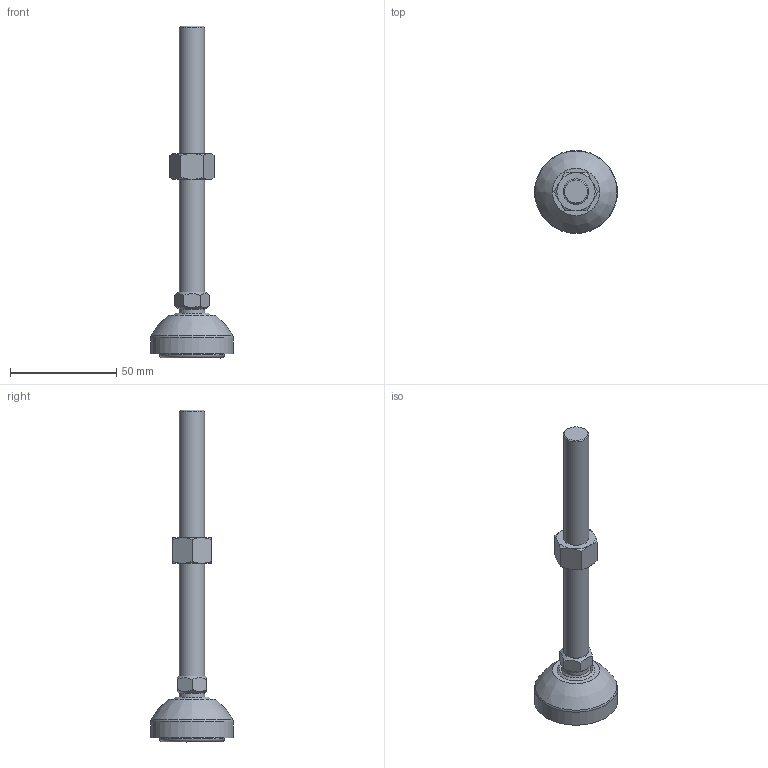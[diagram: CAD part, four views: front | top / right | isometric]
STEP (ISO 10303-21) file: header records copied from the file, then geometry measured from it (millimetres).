
FILE_DESCRIPTION(/* description */ (''),/* implementation_level */ '2;1');
FILE_NAME(/* name */ 'Articulating Anti-slip Levelling Foot - Metal 39mm - M12 - 125mm.step',/* time_stamp */ '2025-10-13T20:37:46+03:00',/* author */ (''),/* organization */ (''),/* preprocessor_version */ 'ST-DEVELOPER v20.1',/* originating_system */ 'Autodesk Translation Framework v14.17.0.0',/* authorisation */ '');
FILE_SCHEMA (('AUTOMOTIVE_DESIGN { 1 0 10303 214 3 1 1 }'));
Length unit declared in the file: millimetre
Products named in the file (5): Articulating Anti-slip Levelling Foot - Metal 39mm - M12 - 125mm; Articulating Levelling Foot Stud - M12 - 125mm; hex nut style 2_am_B18.2.4.2M - Hex nut, Style 2,  M12 x 1.75 --D-N; Articulating Levelling Foot Stud - M12 - 125mm_1; 340.1100A.01
Assembly tree (4 placements, depth 3):
  Articulating Anti-slip Levelling Foot - Metal 39mm - M12 - 125mm
    Articulating Levelling Foot Stud - M12 - 125mm
      hex nut style 2_am_B18.2.4.2M - Hex nut, Style 2,  M12 x 1.75 --D-N
      Articulating Levelling Foot Stud - M12 - 125mm_1
    340.1100A.01
Bounding box: 39 x 39 x 156.01 mm (x, y, z)
Volume: 36578.6 mm3; surface area: 12562 mm2
Topology: 3 solids, 4 shells, 127 faces, 293 edges, 181 vertices
Faces by surface type: plane 59, bspline 28, cone 20, cylinder 17, torus 2, sphere 1
Full cylindrical faces by diameter (mm): 4 x1, 10.274 x1, 11.834 x1, 12 x1, 12.166 x1, 15.052 x1, 30.5 x1, 30.85 x1, 39 x1
Entity records: 4948 total; most frequent: CARTESIAN_POINT 2198, ORIENTED_EDGE 582, DIRECTION 519, EDGE_CURVE 291, AXIS2_PLACEMENT_3D 229, VERTEX_POINT 181, EDGE_LOOP 140, FACE_OUTER_BOUND 127
